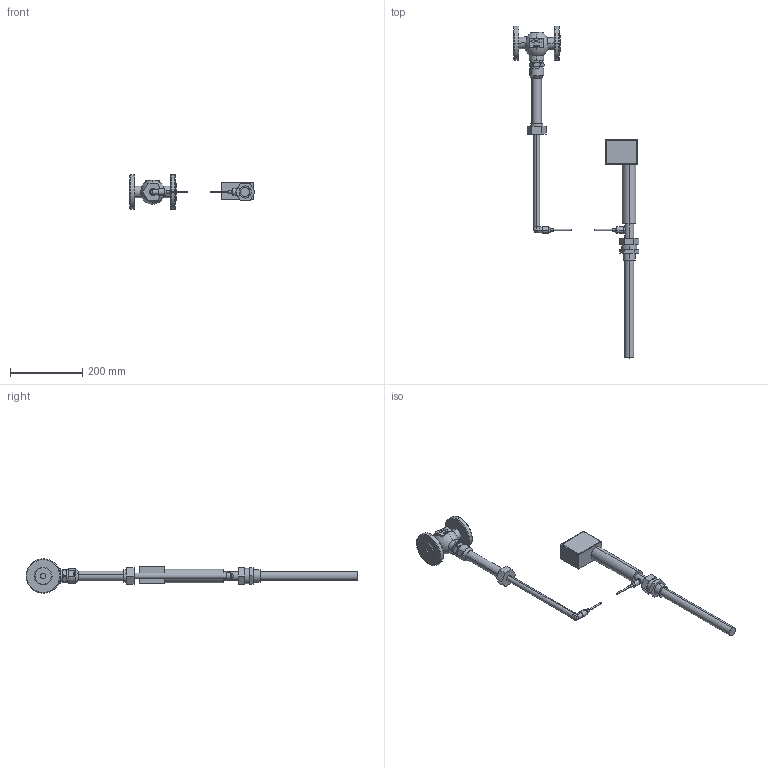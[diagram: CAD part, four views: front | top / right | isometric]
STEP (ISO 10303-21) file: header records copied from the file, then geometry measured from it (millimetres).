
FILE_DESCRIPTION (( 'STEP AP203' ), '1' );
FILE_NAME ('2111(2710)_SS_DIN_015_025_EN-JS1049_B1_VERLST_2231_150.STEP', '2010-03-09T08:48:52', ( '' ), ( '' ), 'SwSTEP 2.0', 'SolidWorks 2006303', '' );
FILE_SCHEMA (( 'CONFIG_CONTROL_DESIGN' ));
Length unit declared in the file: millimetre
Products named in the file (1): 2111(2710)_SS_DIN_015_025_EN-JS1049_B1_VERLST_2231_150
Bounding box: 347.65 x 918.68 x 95 mm (x, y, z)
Surface area: 184601.4 mm2 (no closed solid volume)
Topology: 0 solids, 10 shells, 188 faces, 672 edges, 513 vertices
Faces by surface type: plane 90, cylinder 52, cone 18, torus 17, bspline 10, sphere 1
Entity records: 9902 total; most frequent: CARTESIAN_POINT 4368, ORIENTED_EDGE 1051, DIRECTION 1028, EDGE_CURVE 672, VERTEX_POINT 513, AXIS2_PLACEMENT_3D 348, VECTOR 332, LINE 332
